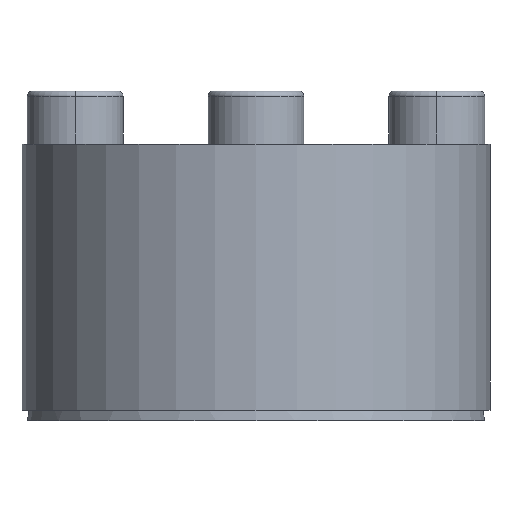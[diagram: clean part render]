
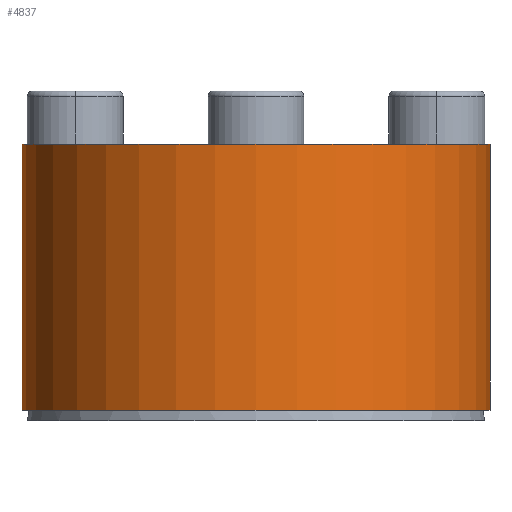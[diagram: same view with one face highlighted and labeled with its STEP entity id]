
A CAD part, front view. The second image highlights one B-rep face of the part: STEP entity #4837.
In plain terms, the highlighted cylindrical face has radius 11 mm (diameter 22 mm), a partial arc.
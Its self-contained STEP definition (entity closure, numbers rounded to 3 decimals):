
#93 = VERTEX_POINT ( 'NONE', #5931 ) ;
#498 = LINE ( 'NONE', #1991, #7055 ) ;
#1137 = EDGE_CURVE ( 'NONE', #3494, #4009, #1385, .T. ) ;
#1222 = CARTESIAN_POINT ( 'NONE',  ( 0., 0., 0.512 ) ) ;
#1385 = LINE ( 'NONE', #3667, #2710 ) ;
#1433 = DIRECTION ( 'NONE',  ( 0., 0., -1. ) ) ;
#1858 = CARTESIAN_POINT ( 'NONE',  ( -11., 0., 13.012 ) ) ;
#1991 = CARTESIAN_POINT ( 'NONE',  ( 11., 0., 0.512 ) ) ;
#2023 = EDGE_LOOP ( 'NONE', ( #2144, #2166, #5098, #4701 ) ) ;
#2144 = ORIENTED_EDGE ( 'NONE', *, *, #1137, .F. ) ;
#2166 = ORIENTED_EDGE ( 'NONE', *, *, #6092, .F. ) ;
#2366 = DIRECTION ( 'NONE',  ( 0., 0., 1. ) ) ;
#2385 = DIRECTION ( 'NONE',  ( 1., 0., 0. ) ) ;
#2387 = CIRCLE ( 'NONE', #4730, 11. ) ;
#2473 = CARTESIAN_POINT ( 'NONE',  ( -11., 0., 0.512 ) ) ;
#2573 = AXIS2_PLACEMENT_3D ( 'NONE', #1222, #2366, #2385 ) ;
#2710 = VECTOR ( 'NONE', #3188, 1000. ) ;
#2895 = CARTESIAN_POINT ( 'NONE',  ( 11., 0., 0.512 ) ) ;
#3057 = AXIS2_PLACEMENT_3D ( 'NONE', #4751, #1433, #5318 ) ;
#3188 = DIRECTION ( 'NONE',  ( 0., 0., 1. ) ) ;
#3206 = CIRCLE ( 'NONE', #3057, 11. ) ;
#3286 = CARTESIAN_POINT ( 'NONE',  ( 0., 0., 13.012 ) ) ;
#3494 = VERTEX_POINT ( 'NONE', #2473 ) ;
#3667 = CARTESIAN_POINT ( 'NONE',  ( -11., 0., 0.512 ) ) ;
#3848 = DIRECTION ( 'NONE',  ( -1., 0., 0. ) ) ;
#4009 = VERTEX_POINT ( 'NONE', #1858 ) ;
#4255 = EDGE_CURVE ( 'NONE', #93, #4009, #2387, .T. ) ;
#4701 = ORIENTED_EDGE ( 'NONE', *, *, #4255, .T. ) ;
#4730 = AXIS2_PLACEMENT_3D ( 'NONE', #3286, #7109, #3848 ) ;
#4751 = CARTESIAN_POINT ( 'NONE',  ( 0., 0., 0.512 ) ) ;
#4837 = ADVANCED_FACE ( 'NONE', ( #5867 ), #5193, .T. ) ;
#5001 = EDGE_CURVE ( 'NONE', #5254, #93, #498, .T. ) ;
#5098 = ORIENTED_EDGE ( 'NONE', *, *, #5001, .T. ) ;
#5193 = CYLINDRICAL_SURFACE ( 'NONE', #2573, 11. ) ;
#5254 = VERTEX_POINT ( 'NONE', #2895 ) ;
#5310 = DIRECTION ( 'NONE',  ( 0., 0., 1. ) ) ;
#5318 = DIRECTION ( 'NONE',  ( -1., 0., 0. ) ) ;
#5867 = FACE_OUTER_BOUND ( 'NONE', #2023, .T. ) ;
#5931 = CARTESIAN_POINT ( 'NONE',  ( 11., 0., 13.012 ) ) ;
#6092 = EDGE_CURVE ( 'NONE', #5254, #3494, #3206, .T. ) ;
#7055 = VECTOR ( 'NONE', #5310, 1000. ) ;
#7109 = DIRECTION ( 'NONE',  ( 0., 0., -1. ) ) ;
